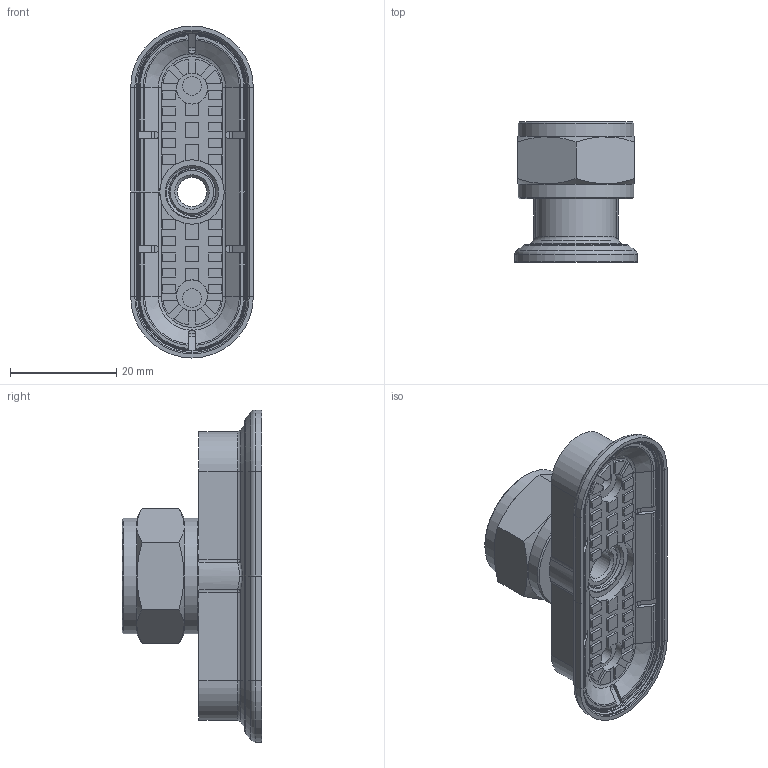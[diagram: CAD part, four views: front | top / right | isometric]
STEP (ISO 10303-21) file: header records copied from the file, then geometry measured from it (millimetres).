
FILE_DESCRIPTION (( 'STEP AP214' ), '1' );
FILE_NAME ('STEP - 4RP 62-- F38.STEP', '2023-11-20T10:54:57', ( '' ), ( '' ), 'SwSTEP 2.0', 'SolidWorks 2021', '' );
FILE_SCHEMA (( 'AUTOMOTIVE_DESIGN' ));
Length unit declared in the file: millimetre
Products named in the file (4): SENGA -205-038; STEP - 4RP 62-- F38; Insert 4RP 62; 4RP 62--A
Assembly tree (3 placements, depth 2):
  STEP - 4RP 62-- F38
    4RP 62--A
    Insert 4RP 62
    SENGA -205-038
Bounding box: 23.14 x 26.39 x 62.59 mm (x, y, z)
Volume: 13164.2 mm3; surface area: 13535.3 mm2
Topology: 4 solids, 4 shells, 629 faces, 1643 edges, 1049 vertices
Faces by surface type: plane 281, cylinder 266, cone 36, torus 29, bspline 17
Full cylindrical faces by diameter (mm): 3.5 x2, 5.5 x2, 5.85 x2, 9.78 x6, 12.139 x1, 13.65 x1, 15 x2, 16.66 x1, 21.8 x4
Entity records: 24161 total; most frequent: CARTESIAN_POINT 8748, DIRECTION 3264, ORIENTED_EDGE 3148, EDGE_CURVE 1574, AXIS2_PLACEMENT_3D 1202, VERTEX_POINT 1022, LINE 860, VECTOR 860
